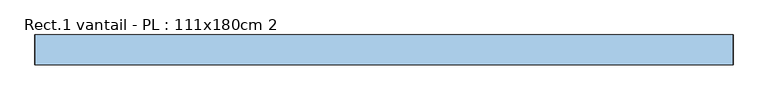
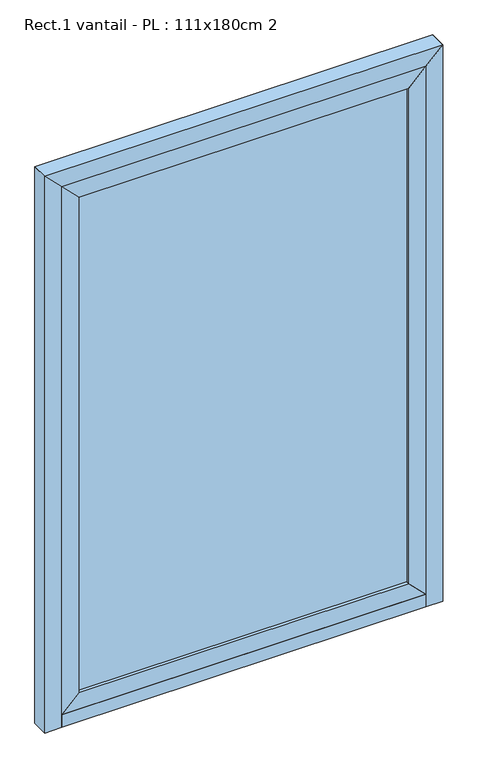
"""IFC4 building model written with IfcOpenShell, lengths in millimetres: window geometry, Rect.1 vantail - PL : 111x180cm 2."""

from ifc_helpers import new_model, si_unit, frame, origin, origin_with_axes, place, context, project, spatial, polyline, outline, extrude, source, transform, mapped, element, save


def rect_1_vantail_pl_111x180cm_2_af92bf05(model_context):
    return source(origin(), model_context, "Body", "SweptSolid", [
        extrude(outline(polyline([(485.0, 10.0), (-485.0, 10.0), (-485.0, 30.0), (485.0, 30.0), (485.0, 10.0)])), frame((0.0, 0.0, 90.0), z_axis=(0.0, 0.0, 1.0), x_axis=(1.0, 0.0, 0.0)), (0.0, 0.0, 1.0), 1540.0),
        extrude(outline(polyline([(40.0, -535.0), (90.0, -485.0), (1630.0, -485.0), (1680.0, -535.0), (40.0, -535.0)])), frame((0.0, 0.0, 0.0), z_axis=(0.0, 1.0, 0.0), x_axis=(0.0, 0.0, 1.0)), (0.0, 0.0, 1.0), 40.0),
        extrude(outline(polyline([(90.0, 485.0), (40.0, 535.0), (1680.0, 535.0), (1630.0, 485.0), (90.0, 485.0)])), frame((0.0, 0.0, 0.0), z_axis=(0.0, 1.0, 0.0), x_axis=(0.0, 0.0, 1.0)), (0.0, 0.0, 1.0), 40.0),
        extrude(outline(polyline([(1680.0, 535.0), (1680.0, -535.0), (1630.0, -485.0), (1630.0, 485.0), (1680.0, 535.0)])), frame((0.0, 0.0, 0.0), z_axis=(0.0, 1.0, 0.0), x_axis=(0.0, 0.0, 1.0)), (0.0, 0.0, 1.0), 40.0),
        extrude(outline(polyline([(40.0, 535.0), (90.0, 485.0), (90.0, -485.0), (40.0, -535.0), (40.0, 535.0)])), frame((0.0, 0.0, 0.0), z_axis=(0.0, 1.0, 0.0), x_axis=(0.0, 0.0, 1.0)), (0.0, 0.0, 1.0), 40.0),
        extrude(outline(polyline([(535.0, 50.0), (535.0, 0.0), (-535.0, 0.0), (-535.0, 50.0), (535.0, 50.0)])), origin_with_axes(), (0.0, 0.0, 1.0), 40.0),
        extrude(outline(polyline([(20.0, 30.0), (50.0, 40.0), (50.0, 0.0), (20.0, 0.0), (20.0, 30.0)])), frame((-555.0, 0.0, 0.0), z_axis=(1.0, 0.0, 0.0), x_axis=(0.0, 1.0, 0.0)), (0.0, 0.0, 1.0), 1110.0),
        extrude(outline(polyline([(1710.0, 565.0), (1700.0, 555.0), (0.0, 555.0), (0.0, 565.0), (1710.0, 565.0)])), frame((0.0, 10.0, 0.0), z_axis=(0.0, 1.0, 0.0), x_axis=(0.0, 0.0, 1.0)), (0.0, 0.0, 1.0), 40.0),
        extrude(outline(polyline([(1710.0, -565.0), (0.0, -565.0), (0.0, -555.0), (1700.0, -555.0), (1710.0, -565.0)])), frame((0.0, 10.0, 0.0), z_axis=(0.0, 1.0, 0.0), x_axis=(0.0, 0.0, 1.0)), (0.0, 0.0, 1.0), 40.0),
        extrude(outline(polyline([(0.0, -585.0), (0.0, -535.0), (1680.0, -535.0), (1730.0, -585.0), (0.0, -585.0)])), frame((0.0, 0.0, 0.0), z_axis=(0.0, 1.0, 0.0), x_axis=(0.0, 0.0, 1.0)), (0.0, 0.0, 1.0), 50.0),
        extrude(outline(polyline([(0.0, 585.0), (1730.0, 585.0), (1680.0, 535.0), (0.0, 535.0), (0.0, 585.0)])), frame((0.0, 0.0, 0.0), z_axis=(0.0, 1.0, 0.0), x_axis=(0.0, 0.0, 1.0)), (0.0, 0.0, 1.0), 50.0),
        extrude(outline(polyline([(1710.0, -565.0), (1700.0, -555.0), (1700.0, 555.0), (1710.0, 565.0), (1710.0, -565.0)])), frame((0.0, 10.0, 0.0), z_axis=(0.0, 1.0, 0.0), x_axis=(0.0, 0.0, 1.0)), (0.0, 0.0, 1.0), 40.0),
        extrude(outline(polyline([(1730.0, 585.0), (1730.0, -585.0), (1680.0, -535.0), (1680.0, 535.0), (1730.0, 585.0)])), frame((0.0, 0.0, 0.0), z_axis=(0.0, 1.0, 0.0), x_axis=(0.0, 0.0, 1.0)), (0.0, 0.0, 1.0), 50.0),
    ])


if __name__ == "__main__":
    model = new_model("IFC4")
    model_context = context("Model", 3, world=origin())
    ifc_project = project(units=[si_unit("LENGTHUNIT", "METRE", prefix="MILLI")], contexts=[model_context])
    site = spatial("IfcSite", under=ifc_project)
    building = spatial("IfcBuilding", under=site)
    placement = place(None, origin())
    rect_1_vantail_pl_111x180cm_2_shape = rect_1_vantail_pl_111x180cm_2_af92bf05(model_context)
    element("IfcWindow", 1, ObjectType="Rect.1 vantail - PL : 111x180cm 2", at=placement, inside=building, context=model_context, shape_type="MappedRepresentation", body=[
        mapped(rect_1_vantail_pl_111x180cm_2_shape, transform((0.0, 0.0, 0.0), x_axis=(1.0, 0.0, 0.0), y_axis=(0.0, 1.0, 0.0), z_axis=(0.0, 0.0, 1.0))),
    ])
    save(model, "model.ifc")
